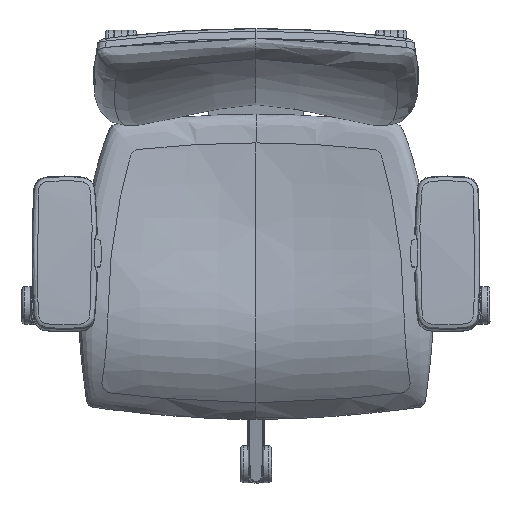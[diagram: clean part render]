
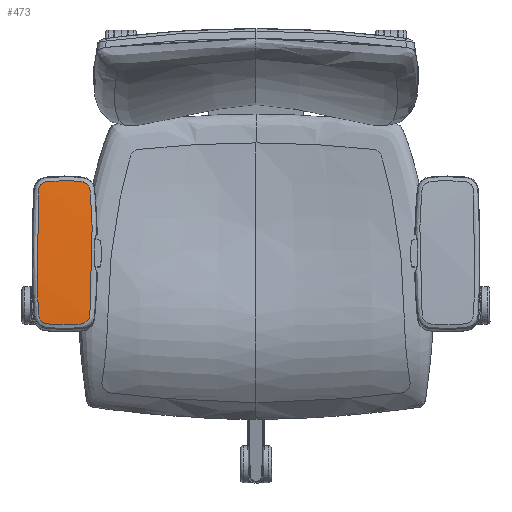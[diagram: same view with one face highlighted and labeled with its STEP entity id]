
A CAD part, top view. The second image highlights one B-rep face of the part: STEP entity #473.
In plain terms, the highlighted free-form (B-spline) face has degree [1, 2] with [2, 3] control points.
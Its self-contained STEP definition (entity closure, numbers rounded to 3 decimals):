
#473=ADVANCED_FACE('',(#895),#5644,.T.);
#895=FACE_OUTER_BOUND('',#1317,.T.);
#1317=EDGE_LOOP('',(#1974));
#1974=ORIENTED_EDGE('',*,*,#3749,.T.);
#3749=EDGE_CURVE('',#5089,#5089,#4670,.T.);
#4670=(
BOUNDED_CURVE()
B_SPLINE_CURVE(3,(#9269,#9270,#9271,#9272,#9273,#9274,#9275,#9276,#9277,
#9278,#9279,#9280,#9281,#9282,#9283,#9284,#9285,#9286,#9287,#9288,#9289,
#9290,#9291,#9292,#9293,#9294,#9295,#9296,#9297,#9298,#9299,#9300,#9301,
#9302,#9303,#9304,#9305,#9306,#9307,#9308,#9309,#9310,#9311,#9312,#9313,
#9314,#9315,#9316,#9317,#9318,#9319,#9320,#9321,#9322,#9323,#9324,#9325,
#9326,#9327,#9328,#9329,#9330,#9331,#9332,#9333,#9334,#9335,#9336,#9337,
#9338,#9339,#9340,#9341,#9342,#9343,#9344,#9345,#9346,#9347,#9348,#9349,
#9350,#9351,#9352,#9353,#9354,#9355,#9356,#9357,#9358,#9359,#9360,#9361,
#9362,#9363,#9364),.UNSPECIFIED.,.T.,.F.)
B_SPLINE_CURVE_WITH_KNOTS((4,3,3,3,1,1,1,3,3,3,3,1,1,1,3,3,3,3,1,3,3,3,
3,3,3,1,3,3,3,3,1,1,1,3,3,1,3,1,1,3,3,4),(0.,17.994,
22.459,26.53,30.983,35.353,39.691,
41.839,45.129,49.611,54.221,63.144,
136.728,211.306,220.327,224.932,229.372,
232.657,236.174,241.693,247.814,256.556,
292.533,296.999,301.014,309.926,316.501,
319.856,324.321,328.92,337.821,411.275,
485.72,494.715,499.312,503.598,507.054,
513.596,518.032,522.423,531.119,549.089),
 .UNSPECIFIED.)
CURVE()
GEOMETRIC_REPRESENTATION_ITEM()
RATIONAL_B_SPLINE_CURVE((1.,1.,1.,1.,1.,1.,
1.,1.,1.,1.,1.,1.,1.,1.,1.,
1.,1.,1.,1.,1.,1.,1.,1.,1.,1.,1.,1.,1.,1.,
1.,1.,1.,1.,1.,1.,1.,1.,1.,1.,1.,1.,
1.,1.,1.,1.,1.,1.,1.,1.,1.,1.,
1.,1.,1.,1.,1.,1.,1.,1.,1.,1.,1.,1.,1.,1.,
1.,1.,1.,1.,1.,1.,1.,1.,1.,1.,1.,1.,1.,1.,1.,1.,1.,
1.,1.,1.,1.,1.,1.,1.,1.,1.,
1.,1.,1.,1.,1.))
REPRESENTATION_ITEM('')
);
#5089=VERTEX_POINT('',#8899);
#5644=(
BOUNDED_SURFACE()
B_SPLINE_SURFACE(1,2,((#8883,#8884,#8885),(#8886,#8887,#8888)),
 .UNSPECIFIED.,.F.,.F.,.F.)
B_SPLINE_SURFACE_WITH_KNOTS((2,2),(3,3),(0.,236.445),(-112.675,
297.535),.UNSPECIFIED.)
GEOMETRIC_REPRESENTATION_ITEM()
RATIONAL_B_SPLINE_SURFACE(((1.,0.993,1.),(1.,0.993,
1.)))
REPRESENTATION_ITEM('')
SURFACE()
);
#8883=CARTESIAN_POINT('',(-401.382,-217.454,677.669));
#8884=CARTESIAN_POINT('',(-401.382,-11.439,683.861));
#8885=CARTESIAN_POINT('',(-401.382,190.078,640.602));
#8886=CARTESIAN_POINT('',(-164.937,-217.454,677.669));
#8887=CARTESIAN_POINT('',(-164.937,-11.439,683.861));
#8888=CARTESIAN_POINT('',(-164.937,190.078,640.602));
#8899=CARTESIAN_POINT('',(-283.162,95.353,658.142));
#9269=CARTESIAN_POINT('',(-283.162,95.353,658.142));
#9270=CARTESIAN_POINT('',(-289.16,95.355,658.142));
#9271=CARTESIAN_POINT('',(-295.158,95.131,658.177));
#9272=CARTESIAN_POINT('',(-301.139,94.679,658.248));
#9273=CARTESIAN_POINT('',(-302.623,94.567,658.265));
#9274=CARTESIAN_POINT('',(-304.106,94.446,658.284));
#9275=CARTESIAN_POINT('',(-305.587,94.299,658.307));
#9276=CARTESIAN_POINT('',(-306.936,94.159,658.328));
#9277=CARTESIAN_POINT('',(-308.294,94.079,658.341));
#9278=CARTESIAN_POINT('',(-309.631,93.842,658.378));
#9279=CARTESIAN_POINT('',(-311.087,93.571,658.42));
#9280=CARTESIAN_POINT('',(-313.91,92.617,658.567));
#9281=CARTESIAN_POINT('',(-317.407,89.884,658.987));
#9282=CARTESIAN_POINT('',(-319.37,86.806,659.454));
#9283=CARTESIAN_POINT('',(-320.075,84.773,659.759));
#9284=CARTESIAN_POINT('',(-320.263,84.086,659.861));
#9285=CARTESIAN_POINT('',(-320.549,83.034,660.018));
#9286=CARTESIAN_POINT('',(-320.702,81.95,660.179));
#9287=CARTESIAN_POINT('',(-320.789,80.864,660.339));
#9288=CARTESIAN_POINT('',(-320.907,79.385,660.556));
#9289=CARTESIAN_POINT('',(-320.971,77.901,660.773));
#9290=CARTESIAN_POINT('',(-321.056,76.419,660.987));
#9291=CARTESIAN_POINT('',(-321.143,74.895,661.207));
#9292=CARTESIAN_POINT('',(-321.224,73.369,661.425));
#9293=CARTESIAN_POINT('',(-321.304,71.844,661.641));
#9294=CARTESIAN_POINT('',(-321.458,68.891,662.06));
#9295=CARTESIAN_POINT('',(-322.81,41.57,665.857));
#9296=CARTESIAN_POINT('',(-324.033,-10.68,671.826));
#9297=CARTESIAN_POINT('',(-322.817,-63.176,675.503));
#9298=CARTESIAN_POINT('',(-321.443,-91.095,676.767));
#9299=CARTESIAN_POINT('',(-321.286,-94.108,676.896));
#9300=CARTESIAN_POINT('',(-321.205,-95.646,676.961));
#9301=CARTESIAN_POINT('',(-321.125,-97.184,677.025));
#9302=CARTESIAN_POINT('',(-321.037,-98.722,677.086));
#9303=CARTESIAN_POINT('',(-320.951,-100.204,677.145));
#9304=CARTESIAN_POINT('',(-320.893,-101.688,677.202));
#9305=CARTESIAN_POINT('',(-320.768,-103.168,677.257));
#9306=CARTESIAN_POINT('',(-320.673,-104.262,677.298));
#9307=CARTESIAN_POINT('',(-320.506,-105.353,677.338));
#9308=CARTESIAN_POINT('',(-320.213,-106.412,677.375));
#9309=CARTESIAN_POINT('',(-319.897,-107.544,677.415));
#9310=CARTESIAN_POINT('',(-318.761,-110.371,677.512));
#9311=CARTESIAN_POINT('',(-316.703,-112.677,677.585));
#9312=CARTESIAN_POINT('',(-315.196,-113.737,677.618));
#9313=CARTESIAN_POINT('',(-313.524,-114.911,677.655));
#9314=CARTESIAN_POINT('',(-311.58,-115.691,677.678));
#9315=CARTESIAN_POINT('',(-309.563,-116.003,677.687));
#9316=CARTESIAN_POINT('',(-306.682,-116.445,677.7));
#9317=CARTESIAN_POINT('',(-303.771,-116.646,677.706));
#9318=CARTESIAN_POINT('',(-300.867,-116.873,677.713));
#9319=CARTESIAN_POINT('',(-288.909,-117.787,677.739));
#9320=CARTESIAN_POINT('',(-276.881,-117.758,677.738));
#9321=CARTESIAN_POINT('',(-264.925,-116.831,677.712));
#9322=CARTESIAN_POINT('',(-263.441,-116.715,677.708));
#9323=CARTESIAN_POINT('',(-261.957,-116.59,677.705));
#9324=CARTESIAN_POINT('',(-260.476,-116.439,677.7));
#9325=CARTESIAN_POINT('',(-259.146,-116.298,677.696));
#9326=CARTESIAN_POINT('',(-257.806,-116.217,677.694));
#9327=CARTESIAN_POINT('',(-256.49,-115.968,677.686));
#9328=CARTESIAN_POINT('',(-253.571,-115.422,677.67));
#9329=CARTESIAN_POINT('',(-248.8,-112.803,677.593));
#9330=CARTESIAN_POINT('',(-246.274,-108.097,677.435));
#9331=CARTESIAN_POINT('',(-245.673,-105.99,677.36));
#9332=CARTESIAN_POINT('',(-245.365,-104.91,677.322));
#9333=CARTESIAN_POINT('',(-245.194,-103.796,677.281));
#9334=CARTESIAN_POINT('',(-245.076,-102.681,677.239));
#9335=CARTESIAN_POINT('',(-244.92,-101.196,677.183));
#9336=CARTESIAN_POINT('',(-244.823,-99.705,677.126));
#9337=CARTESIAN_POINT('',(-244.703,-98.217,677.066));
#9338=CARTESIAN_POINT('',(-244.58,-96.683,677.004));
#9339=CARTESIAN_POINT('',(-244.466,-95.149,676.94));
#9340=CARTESIAN_POINT('',(-244.352,-93.615,676.875));
#9341=CARTESIAN_POINT('',(-244.133,-90.647,676.747));
#9342=CARTESIAN_POINT('',(-242.213,-63.178,675.497));
#9343=CARTESIAN_POINT('',(-240.477,-10.811,671.837));
#9344=CARTESIAN_POINT('',(-242.201,41.379,665.885));
#9345=CARTESIAN_POINT('',(-244.152,68.973,662.048));
#9346=CARTESIAN_POINT('',(-244.374,71.946,661.627));
#9347=CARTESIAN_POINT('',(-244.488,73.465,661.411));
#9348=CARTESIAN_POINT('',(-244.602,74.984,661.194));
#9349=CARTESIAN_POINT('',(-244.726,76.501,660.975));
#9350=CARTESIAN_POINT('',(-244.847,77.916,660.77));
#9351=CARTESIAN_POINT('',(-244.994,80.477,660.397));
#9352=CARTESIAN_POINT('',(-245.39,83.017,660.021));
#9353=CARTESIAN_POINT('',(-245.724,84.114,659.857));
#9354=CARTESIAN_POINT('',(-246.344,86.188,659.548));
#9355=CARTESIAN_POINT('',(-248.171,89.455,659.054));
#9356=CARTESIAN_POINT('',(-252.303,92.584,658.573));
#9357=CARTESIAN_POINT('',(-255.117,93.548,658.423));
#9358=CARTESIAN_POINT('',(-256.563,93.787,658.386));
#9359=CARTESIAN_POINT('',(-259.425,94.25,658.314));
#9360=CARTESIAN_POINT('',(-262.323,94.431,658.286));
#9361=CARTESIAN_POINT('',(-265.21,94.666,658.25));
#9362=CARTESIAN_POINT('',(-271.182,95.137,658.176));
#9363=CARTESIAN_POINT('',(-277.173,95.346,658.144));
#9364=CARTESIAN_POINT('',(-283.162,95.353,658.142));
